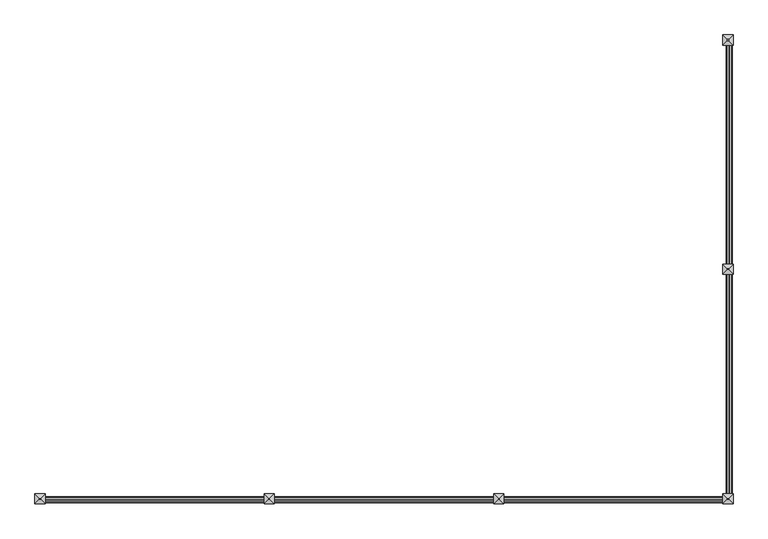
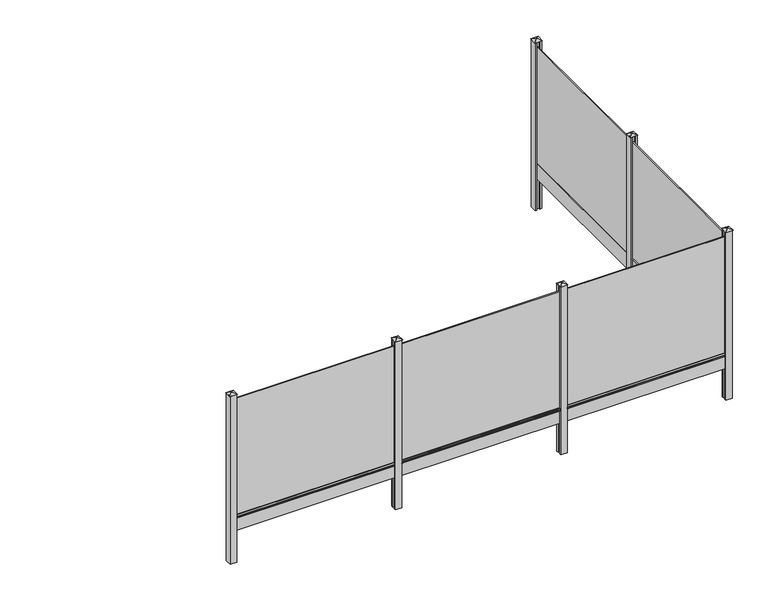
"""IFC4 building model written with IfcOpenShell, lengths in millimetres: railing geometry, Mehat - Railing - Plaque de Soubassement - Classique pour clôture rigide - 251x25x4.3/3.8 cm."""

from ifc_helpers import new_model, si_unit, frame, origin, place, context, project, spatial, polyline, circle_curve, outline, extrude, faceted_brep, source, transform, mapped, element, save
from ifc_brep_helpers import plane_surface, cylinder_surface, advanced_brep


def railing_cda7871a(model_context):
    return source(origin(), model_context, "Body", "SolidModel", [
        extrude(outline(polyline([(180896.2516516, -10817.4943936), (180879.2516516, -10817.4943936), (180879.2516516, -8307.4943936), (180896.2516516, -8307.4943936), (180896.2516516, -10817.4943936)])), frame((0.0, 0.0, 250.0), z_axis=(0.0, 0.0, 1.0), x_axis=(1.0, 0.0, 0.0)), (0.0, 0.0, 1.0), 1900.0),
        advanced_brep(
        [(180909.0334698, -8307.4943936, 250.0), (180908.8503139, -8307.4943936, 209.8662207), (180906.7516516, -8307.4943936, 0.0), (180868.7516516, -8307.4943936, 0.0), (180866.2516516, -8307.4943936, 250.0), (180908.8503139, -10817.4943936, 209.8662207), (180909.0334698, -10817.4943936, 250.0), (180866.2516516, -10817.4943936, 250.0), (180868.7516516, -10817.4943936, 0.0), (180906.7516516, -10817.4943936, 0.0), (180909.0334698, -10792.4943936, 250.0), (180909.0334698, -8332.4943936, 250.0), (180908.8503139, -8332.4943936, 209.8662207), (180908.8503139, -10792.4943936, 209.8662207), (180930.8327905, -8332.4943936, 217.1937129), (180930.8327905, -10792.4943936, 217.1937129), (180934.2516516, -8332.4943936, 221.9371294), (180934.2516516, -10792.4943936, 221.9371294), (180934.2516516, -8332.4943936, 238.0628706), (180934.2516516, -10792.4943936, 238.0628706), (180930.8327905, -8332.4943936, 242.8062871), (180930.8327905, -10792.4943936, 242.8062871)],
        [
            (0, 1),
            (1, 2),
            (2, 3),
            (3, 4),
            (4, 0),
            (5, 6),
            (6, 7),
            (7, 8),
            (8, 9),
            (9, 5),
            (4, 7),
            (6, 10),
            (10, 11),
            (11, 0),
            (3, 8),
            (2, 9),
            (1, 12),
            (12, 13),
            (13, 5),
            (12, 14),
            (14, 15),
            (15, 13),
            (14, 16, circle_curve(frame((180929.2516516, -8332.4943936, 221.9371294), z_axis=(0.0, -1.0, 0.0), x_axis=(1.0, 0.0, 0.0)), 5.0)),
            (16, 17),
            (17, 15, circle_curve(frame((180929.2516516, -10792.4943936, 221.9371294), z_axis=(0.0, 1.0, 0.0), x_axis=(1.0, 0.0, 0.0)), 5.0)),
            (16, 18),
            (18, 19),
            (19, 17),
            (18, 20, circle_curve(frame((180929.2516516, -8332.4943936, 238.0628706), z_axis=(0.0, -1.0, 0.0), x_axis=(1.0, 0.0, 0.0)), 5.0)),
            (20, 21),
            (21, 19, circle_curve(frame((180929.2516516, -10792.4943936, 238.0628706), z_axis=(0.0, 1.0, 0.0), x_axis=(1.0, 0.0, 0.0)), 5.0)),
            (20, 11),
            (10, 21),
            (10, 13),
            (12, 11),
        ],
        [
            plane_surface(frame((180866.2516516, -8307.4943936, 250.0), z_axis=(0.0, 1.0, 0.0), x_axis=(-1.0, 0.0, 0.0))),
            plane_surface(frame((180866.2516516, -10817.4943936, 250.0), z_axis=(0.0, -1.0, 0.0), x_axis=(1.0, 0.0, 0.0))),
            plane_surface(frame((180909.0334698, -8307.4943936, 250.0), z_axis=(0.0, 0.0, 1.0), x_axis=(0.0, -1.0, 0.0))),
            plane_surface(frame((180866.2516516, -8307.4943936, 250.0), z_axis=(-0.9999500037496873, 0.0, -0.009999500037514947), x_axis=(0.0, -1.0, 0.0))),
            plane_surface(frame((180868.7516516, -8307.4943936, 0.0), z_axis=(0.0, 0.0, -1.0), x_axis=(0.0, -1.0, 0.0))),
            plane_surface(frame((180906.7516516, -8307.4943936, 0.0), z_axis=(0.9999500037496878, 0.0, -0.009999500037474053), x_axis=(0.0, -1.0, 0.0))),
            plane_surface(frame((180908.8503139, -8307.4943936, 209.8662207), z_axis=(0.3162277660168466, 0.0, -0.948683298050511), x_axis=(0.0, -1.0, 0.0))),
            cylinder_surface(frame((180929.2516516, -10817.4943936, 221.9371294), z_axis=(0.0, 1.0, 0.0), x_axis=(1.0, 0.0, 0.0)), 5.0),
            plane_surface(frame((180934.2516516, -8307.4943936, 221.9371294), z_axis=(1.0, 0.0, 0.0), x_axis=(0.0, -1.0, 0.0))),
            cylinder_surface(frame((180929.2516516, -10817.4943936, 238.0628706), z_axis=(0.0, 1.0, 0.0), x_axis=(1.0, 0.0, 0.0)), 5.0),
            plane_surface(frame((180930.8327905, -8307.4943936, 242.8062871), z_axis=(0.3133749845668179, 0.0, 0.9496294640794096), x_axis=(0.0, -1.0, 0.0))),
            plane_surface(frame((180934.2516516, -10792.4943936, 221.9371294), z_axis=(0.0, -1.0, 0.0), x_axis=(0.0, 0.0, 1.0))),
            plane_surface(frame((180909.0334698, -10792.4943936, 250.0), z_axis=(0.9999895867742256, 0.0, -0.004563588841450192), x_axis=(0.0, -1.0, 0.0))),
            plane_surface(frame((180934.2516517, -8332.4943936, 221.9371294), z_axis=(0.0, 1.0, 0.0), x_axis=(0.0, 0.0, -1.0))),
            plane_surface(frame((180909.0334698, -8307.4943936, 250.0), z_axis=(0.9999895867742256, 0.0, -0.004563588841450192), x_axis=(0.0, -1.0, 0.0))),
        ],
        [
            (0, [[1, 2, 3, 4, 5]]),
            (1, [[6, 7, 8, 9, 10]]),
            (2, [[11, -7, 12, 13, 14, -5]]),
            (3, [[15, -8, -11, -4]]),
            (4, [[16, -9, -15, -3]]),
            (5, [[17, 18, 19, -10, -16, -2]]),
            (6, [[-18, 20, 21, 22]]),
            (7, [[-21, 23, 24, 25]]),
            (8, [[-24, 26, 27, 28]]),
            (9, [[-27, 29, 30, 31]]),
            (10, [[-30, 32, -13, 33]]),
            (11, [[-22, -25, -28, -31, -33, 34]]),
            (12, [[-12, -6, -19, -34]]),
            (13, [[-32, -29, -26, -23, -20, 35]]),
            (14, [[-17, -1, -14, -35]]),
        ],
    ),
        extrude(outline(polyline([(180937.7516516, -10892.4943936), (180909.2516516, -10892.4943936), (180909.2516516, -10867.4943936), (180866.2516516, -10867.4943936), (180866.2516516, -10892.4943936), (180837.7516516, -10892.4943936), (180837.7516516, -10792.4943936), (180866.2516516, -10792.4943936), (180866.2516516, -10817.4943936), (180909.2516516, -10817.4943936), (180909.2516516, -10792.4943936), (180937.7516516, -10792.4943936), (180937.7516516, -10892.4943936)])), frame((0.0, 0.0, -500.0), z_axis=(0.0, 0.0, 1.0), x_axis=(1.0, 0.0, 0.0)), (0.0, 0.0, 1.0), 2750.0),
        faceted_brep([(180881.3471055, -10836.1443936, 2275.4), (180881.3471055, -10848.8443936, 2275.4), (180894.0471055, -10848.8443936, 2275.4), (180894.0471055, -10836.1443936, 2275.4), (180831.4016516, -10786.1443936, 2250.0), (180944.1016516, -10786.1443936, 2250.0), (180944.1016516, -10898.8443936, 2250.0), (180831.4016516, -10898.8443936, 2250.0)], [[[0, 1, 2, 3]], [[4, 5, 6, 7]], [[4, 0, 3, 5]], [[5, 3, 2, 6]], [[6, 2, 1, 7]], [[7, 1, 0, 4]]]),
        extrude(outline(polyline([(180896.2516516, -13377.4943936), (180879.2516516, -13377.4943936), (180879.2516516, -10867.4943936), (180896.2516516, -10867.4943936), (180896.2516516, -13377.4943936)])), frame((0.0, 0.0, 250.0), z_axis=(0.0, 0.0, 1.0), x_axis=(1.0, 0.0, 0.0)), (0.0, 0.0, 1.0), 1900.0),
        advanced_brep(
        [(180909.0334698, -10867.4943936, 250.0), (180908.8503139, -10867.4943936, 209.8662207), (180906.7516516, -10867.4943936, 0.0), (180868.7516516, -10867.4943936, 0.0), (180866.2516516, -10867.4943936, 250.0), (180908.8503139, -13377.4943936, 209.8662207), (180909.0334698, -13377.4943936, 250.0), (180866.2516516, -13377.4943936, 250.0), (180868.7516516, -13377.4943936, 0.0), (180906.7516516, -13377.4943936, 0.0), (180909.0334698, -13352.4943936, 250.0), (180909.0334698, -10892.4943936, 250.0), (180908.8503139, -10892.4943936, 209.8662207), (180908.8503139, -13352.4943936, 209.8662207), (180930.8327905, -10892.4943936, 217.1937129), (180930.8327905, -13352.4943936, 217.1937129), (180934.2516516, -10892.4943936, 221.9371294), (180934.2516516, -13352.4943936, 221.9371294), (180934.2516516, -10892.4943936, 238.0628706), (180934.2516516, -13352.4943936, 238.0628706), (180930.8327905, -10892.4943936, 242.8062871), (180930.8327905, -13352.4943936, 242.8062871)],
        [
            (0, 1),
            (1, 2),
            (2, 3),
            (3, 4),
            (4, 0),
            (5, 6),
            (6, 7),
            (7, 8),
            (8, 9),
            (9, 5),
            (4, 7),
            (6, 10),
            (10, 11),
            (11, 0),
            (3, 8),
            (2, 9),
            (1, 12),
            (12, 13),
            (13, 5),
            (12, 14),
            (14, 15),
            (15, 13),
            (14, 16, circle_curve(frame((180929.2516516, -10892.4943936, 221.9371294), z_axis=(0.0, -1.0, 0.0), x_axis=(1.0, 0.0, 0.0)), 5.0)),
            (16, 17),
            (17, 15, circle_curve(frame((180929.2516516, -13352.4943936, 221.9371294), z_axis=(0.0, 1.0, 0.0), x_axis=(1.0, 0.0, 0.0)), 5.0)),
            (16, 18),
            (18, 19),
            (19, 17),
            (18, 20, circle_curve(frame((180929.2516516, -10892.4943936, 238.0628706), z_axis=(0.0, -1.0, 0.0), x_axis=(1.0, 0.0, 0.0)), 5.0)),
            (20, 21),
            (21, 19, circle_curve(frame((180929.2516516, -13352.4943936, 238.0628706), z_axis=(0.0, 1.0, 0.0), x_axis=(1.0, 0.0, 0.0)), 5.0)),
            (20, 11),
            (10, 21),
            (10, 13),
            (12, 11),
        ],
        [
            plane_surface(frame((180866.2516516, -10867.4943936, 250.0), z_axis=(0.0, 1.0, 0.0), x_axis=(-1.0, 0.0, 0.0))),
            plane_surface(frame((180866.2516516, -13377.4943936, 250.0), z_axis=(0.0, -1.0, 0.0), x_axis=(1.0, 0.0, 0.0))),
            plane_surface(frame((180909.0334698, -10867.4943936, 250.0), z_axis=(0.0, 0.0, 1.0), x_axis=(0.0, -1.0, 0.0))),
            plane_surface(frame((180866.2516516, -10867.4943936, 250.0), z_axis=(-0.9999500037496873, 0.0, -0.009999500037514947), x_axis=(0.0, -1.0, 0.0))),
            plane_surface(frame((180868.7516516, -10867.4943936, 0.0), z_axis=(0.0, 0.0, -1.0), x_axis=(0.0, -1.0, 0.0))),
            plane_surface(frame((180906.7516516, -10867.4943936, 0.0), z_axis=(0.9999500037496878, 0.0, -0.009999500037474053), x_axis=(0.0, -1.0, 0.0))),
            plane_surface(frame((180908.8503139, -10867.4943936, 209.8662207), z_axis=(0.3162277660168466, 0.0, -0.948683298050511), x_axis=(0.0, -1.0, 0.0))),
            cylinder_surface(frame((180929.2516516, -13377.4943936, 221.9371294), z_axis=(0.0, 1.0, 0.0), x_axis=(1.0, 0.0, 0.0)), 5.0),
            plane_surface(frame((180934.2516516, -10867.4943936, 221.9371294), z_axis=(1.0, 0.0, 0.0), x_axis=(0.0, -1.0, 0.0))),
            cylinder_surface(frame((180929.2516516, -13377.4943936, 238.0628706), z_axis=(0.0, 1.0, 0.0), x_axis=(1.0, 0.0, 0.0)), 5.0),
            plane_surface(frame((180930.8327905, -10867.4943936, 242.8062871), z_axis=(0.3133749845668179, 0.0, 0.9496294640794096), x_axis=(0.0, -1.0, 0.0))),
            plane_surface(frame((180934.2516516, -13352.4943936, 221.9371294), z_axis=(0.0, -1.0, 0.0), x_axis=(0.0, 0.0, 1.0))),
            plane_surface(frame((180909.0334698, -13352.4943936, 250.0), z_axis=(0.9999895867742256, 0.0, -0.004563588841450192), x_axis=(0.0, -1.0, 0.0))),
            plane_surface(frame((180934.2516517, -10892.4943936, 221.9371294), z_axis=(0.0, 1.0, 0.0), x_axis=(0.0, 0.0, -1.0))),
            plane_surface(frame((180909.0334698, -10867.4943936, 250.0), z_axis=(0.9999895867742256, 0.0, -0.004563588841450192), x_axis=(0.0, -1.0, 0.0))),
        ],
        [
            (0, [[1, 2, 3, 4, 5]]),
            (1, [[6, 7, 8, 9, 10]]),
            (2, [[11, -7, 12, 13, 14, -5]]),
            (3, [[15, -8, -11, -4]]),
            (4, [[16, -9, -15, -3]]),
            (5, [[17, 18, 19, -10, -16, -2]]),
            (6, [[-18, 20, 21, 22]]),
            (7, [[-21, 23, 24, 25]]),
            (8, [[-24, 26, 27, 28]]),
            (9, [[-27, 29, 30, 31]]),
            (10, [[-30, 32, -13, 33]]),
            (11, [[-22, -25, -28, -31, -33, 34]]),
            (12, [[-12, -6, -19, -34]]),
            (13, [[-32, -29, -26, -23, -20, 35]]),
            (14, [[-17, -1, -14, -35]]),
        ],
    ),
        extrude(outline(polyline([(178352.7516516, -13410.9943936), (178352.7516516, -13393.9943936), (180862.7516516, -13393.9943936), (180862.7516516, -13410.9943936), (178352.7516516, -13410.9943936)])), frame((0.0, 0.0, 250.0), z_axis=(0.0, 0.0, 1.0), x_axis=(1.0, 0.0, 0.0)), (0.0, 0.0, 1.0), 1900.0),
        advanced_brep(
        [(180862.7516516, -13423.7762118, 250.0), (180862.7516516, -13423.5930558, 209.8662207), (180862.7516516, -13421.4943936, 0.0), (180862.7516516, -13383.4943936, 0.0), (180862.7516516, -13380.9943936, 250.0), (178352.7516516, -13423.5930558, 209.8662207), (178352.7516516, -13423.7762118, 250.0), (178352.7516516, -13380.9943936, 250.0), (178352.7516516, -13383.4943936, 0.0), (178352.7516516, -13421.4943936, 0.0), (178377.7516516, -13423.7762118, 250.0), (180837.7516516, -13423.7762118, 250.0), (180837.7516516, -13423.5930558, 209.8662207), (178377.7516516, -13423.5930558, 209.8662207), (180837.7516516, -13445.5755325, 217.1937129), (178377.7516516, -13445.5755325, 217.1937129), (180837.7516516, -13448.9943936, 221.9371294), (178377.7516516, -13448.9943936, 221.9371294), (180837.7516516, -13448.9943936, 238.0628706), (178377.7516516, -13448.9943936, 238.0628706), (180837.7516516, -13445.5755325, 242.8062871), (178377.7516516, -13445.5755325, 242.8062871)],
        [
            (0, 1),
            (1, 2),
            (2, 3),
            (3, 4),
            (4, 0),
            (5, 6),
            (6, 7),
            (7, 8),
            (8, 9),
            (9, 5),
            (4, 7),
            (6, 10),
            (10, 11),
            (11, 0),
            (3, 8),
            (2, 9),
            (1, 12),
            (12, 13),
            (13, 5),
            (12, 14),
            (14, 15),
            (15, 13),
            (14, 16, circle_curve(frame((180837.7516516, -13443.9943936, 221.9371294), z_axis=(-1.0, 0.0, 0.0), x_axis=(0.0, -1.0, 0.0)), 5.0)),
            (16, 17),
            (17, 15, circle_curve(frame((178377.7516516, -13443.9943936, 221.9371294), z_axis=(1.0, 0.0, 0.0), x_axis=(0.0, -1.0, 0.0)), 5.0)),
            (16, 18),
            (18, 19),
            (19, 17),
            (18, 20, circle_curve(frame((180837.7516516, -13443.9943936, 238.0628706), z_axis=(-1.0, 0.0, 0.0), x_axis=(0.0, -1.0, 0.0)), 5.0)),
            (20, 21),
            (21, 19, circle_curve(frame((178377.7516516, -13443.9943936, 238.0628706), z_axis=(1.0, 0.0, 0.0), x_axis=(0.0, -1.0, 0.0)), 5.0)),
            (20, 11),
            (10, 21),
            (10, 13),
            (12, 11),
        ],
        [
            plane_surface(frame((180862.7516516, -13380.9943936, 250.0), z_axis=(1.0, 0.0, 0.0), x_axis=(0.0, 1.0, 0.0))),
            plane_surface(frame((178352.7516516, -13380.9943936, 250.0), z_axis=(-1.0, 0.0, 0.0), x_axis=(0.0, -1.0, 0.0))),
            plane_surface(frame((180862.7516516, -13423.7762118, 250.0), z_axis=(0.0, 0.0, 1.0), x_axis=(-1.0, 0.0, 0.0))),
            plane_surface(frame((180862.7516516, -13380.9943936, 250.0), z_axis=(0.0, 0.9999500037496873, -0.009999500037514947), x_axis=(-1.0, 0.0, 0.0))),
            plane_surface(frame((180862.7516516, -13383.4943936, 0.0), z_axis=(0.0, 0.0, -1.0), x_axis=(-1.0, 0.0, 0.0))),
            plane_surface(frame((180862.7516516, -13421.4943936, 0.0), z_axis=(0.0, -0.9999500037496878, -0.009999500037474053), x_axis=(-1.0, 0.0, 0.0))),
            plane_surface(frame((180862.7516516, -13423.5930558, 209.8662207), z_axis=(0.0, -0.3162277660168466, -0.948683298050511), x_axis=(-1.0, 0.0, 0.0))),
            cylinder_surface(frame((178352.7516516, -13443.9943936, 221.9371294), z_axis=(1.0, 0.0, 0.0), x_axis=(0.0, -1.0, 0.0)), 5.0),
            plane_surface(frame((180862.7516516, -13448.9943936, 221.9371294), z_axis=(0.0, -1.0, 0.0), x_axis=(-1.0, 0.0, 0.0))),
            cylinder_surface(frame((178352.7516516, -13443.9943936, 238.0628706), z_axis=(1.0, 0.0, 0.0), x_axis=(0.0, -1.0, 0.0)), 5.0),
            plane_surface(frame((180862.7516516, -13445.5755325, 242.8062871), z_axis=(0.0, -0.3133749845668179, 0.9496294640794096), x_axis=(-1.0, 0.0, 0.0))),
            plane_surface(frame((178377.7516516, -13448.9943936, 221.9371294), z_axis=(-1.0, 0.0, 0.0), x_axis=(0.0, 0.0, 1.0))),
            plane_surface(frame((178377.7516516, -13423.7762118, 250.0), z_axis=(0.0, -0.9999895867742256, -0.004563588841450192), x_axis=(-1.0, 0.0, 0.0))),
            plane_surface(frame((180837.7516516, -13448.9943936, 221.9371294), z_axis=(1.0, 0.0, 0.0), x_axis=(0.0, 0.0, -1.0))),
            plane_surface(frame((180862.7516516, -13423.7762118, 250.0), z_axis=(0.0, -0.9999895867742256, -0.004563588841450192), x_axis=(-1.0, 0.0, 0.0))),
        ],
        [
            (0, [[1, 2, 3, 4, 5]]),
            (1, [[6, 7, 8, 9, 10]]),
            (2, [[11, -7, 12, 13, 14, -5]]),
            (3, [[15, -8, -11, -4]]),
            (4, [[16, -9, -15, -3]]),
            (5, [[17, 18, 19, -10, -16, -2]]),
            (6, [[-18, 20, 21, 22]]),
            (7, [[-21, 23, 24, 25]]),
            (8, [[-24, 26, 27, 28]]),
            (9, [[-27, 29, 30, 31]]),
            (10, [[-30, 32, -13, 33]]),
            (11, [[-22, -25, -28, -31, -33, 34]]),
            (12, [[-12, -6, -19, -34]]),
            (13, [[-32, -29, -26, -23, -20, 35]]),
            (14, [[-17, -1, -14, -35]]),
        ],
    ),
        extrude(outline(polyline([(178277.7516516, -13452.4943936), (178277.7516516, -13423.9943936), (178302.7516516, -13423.9943936), (178302.7516516, -13380.9943936), (178277.7516516, -13380.9943936), (178277.7516516, -13352.4943936), (178377.7516516, -13352.4943936), (178377.7516516, -13380.9943936), (178352.7516516, -13380.9943936), (178352.7516516, -13423.9943936), (178377.7516516, -13423.9943936), (178377.7516516, -13452.4943936), (178277.7516516, -13452.4943936)])), frame((0.0, 0.0, -500.0), z_axis=(0.0, 0.0, 1.0), x_axis=(1.0, 0.0, 0.0)), (0.0, 0.0, 1.0), 2750.0),
        faceted_brep([(178334.1016516, -13396.0898475, 2275.4), (178321.4016516, -13396.0898475, 2275.4), (178321.4016516, -13408.7898475, 2275.4), (178334.1016516, -13408.7898475, 2275.4), (178384.1016516, -13346.1443936, 2250.0), (178384.1016516, -13458.8443936, 2250.0), (178271.4016516, -13458.8443936, 2250.0), (178271.4016516, -13346.1443936, 2250.0)], [[[0, 1, 2, 3]], [[4, 5, 6, 7]], [[4, 0, 3, 5]], [[5, 3, 2, 6]], [[6, 2, 1, 7]], [[7, 1, 0, 4]]]),
        extrude(outline(polyline([(175792.7516516, -13410.9943936), (175792.7516516, -13393.9943936), (178302.7516516, -13393.9943936), (178302.7516516, -13410.9943936), (175792.7516516, -13410.9943936)])), frame((0.0, 0.0, 250.0), z_axis=(0.0, 0.0, 1.0), x_axis=(1.0, 0.0, 0.0)), (0.0, 0.0, 1.0), 1900.0),
        advanced_brep(
        [(178302.7516516, -13423.7762118, 250.0), (178302.7516516, -13423.5930558, 209.8662207), (178302.7516516, -13421.4943936, 0.0), (178302.7516516, -13383.4943936, 0.0), (178302.7516516, -13380.9943936, 250.0), (175792.7516516, -13423.5930558, 209.8662207), (175792.7516516, -13423.7762118, 250.0), (175792.7516516, -13380.9943936, 250.0), (175792.7516516, -13383.4943936, 0.0), (175792.7516516, -13421.4943936, 0.0), (175817.7516516, -13423.7762118, 250.0), (178277.7516516, -13423.7762118, 250.0), (178277.7516516, -13423.5930558, 209.8662207), (175817.7516516, -13423.5930558, 209.8662207), (178277.7516516, -13445.5755325, 217.1937129), (175817.7516516, -13445.5755325, 217.1937129), (178277.7516516, -13448.9943936, 221.9371294), (175817.7516516, -13448.9943936, 221.9371294), (178277.7516516, -13448.9943936, 238.0628706), (175817.7516516, -13448.9943936, 238.0628706), (178277.7516516, -13445.5755325, 242.8062871), (175817.7516516, -13445.5755325, 242.8062871)],
        [
            (0, 1),
            (1, 2),
            (2, 3),
            (3, 4),
            (4, 0),
            (5, 6),
            (6, 7),
            (7, 8),
            (8, 9),
            (9, 5),
            (4, 7),
            (6, 10),
            (10, 11),
            (11, 0),
            (3, 8),
            (2, 9),
            (1, 12),
            (12, 13),
            (13, 5),
            (12, 14),
            (14, 15),
            (15, 13),
            (14, 16, circle_curve(frame((178277.7516516, -13443.9943936, 221.9371294), z_axis=(-1.0, 0.0, 0.0), x_axis=(0.0, -1.0, 0.0)), 5.0)),
            (16, 17),
            (17, 15, circle_curve(frame((175817.7516516, -13443.9943936, 221.9371294), z_axis=(1.0, 0.0, 0.0), x_axis=(0.0, -1.0, 0.0)), 5.0)),
            (16, 18),
            (18, 19),
            (19, 17),
            (18, 20, circle_curve(frame((178277.7516516, -13443.9943936, 238.0628706), z_axis=(-1.0, 0.0, 0.0), x_axis=(0.0, -1.0, 0.0)), 5.0)),
            (20, 21),
            (21, 19, circle_curve(frame((175817.7516516, -13443.9943936, 238.0628706), z_axis=(1.0, 0.0, 0.0), x_axis=(0.0, -1.0, 0.0)), 5.0)),
            (20, 11),
            (10, 21),
            (10, 13),
            (12, 11),
        ],
        [
            plane_surface(frame((178302.7516516, -13380.9943936, 250.0), z_axis=(1.0, 0.0, 0.0), x_axis=(0.0, 1.0, 0.0))),
            plane_surface(frame((175792.7516516, -13380.9943936, 250.0), z_axis=(-1.0, 0.0, 0.0), x_axis=(0.0, -1.0, 0.0))),
            plane_surface(frame((178302.7516516, -13423.7762118, 250.0), z_axis=(0.0, 0.0, 1.0), x_axis=(-1.0, 0.0, 0.0))),
            plane_surface(frame((178302.7516516, -13380.9943936, 250.0), z_axis=(0.0, 0.9999500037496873, -0.009999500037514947), x_axis=(-1.0, 0.0, 0.0))),
            plane_surface(frame((178302.7516516, -13383.4943936, 0.0), z_axis=(0.0, 0.0, -1.0), x_axis=(-1.0, 0.0, 0.0))),
            plane_surface(frame((178302.7516516, -13421.4943936, 0.0), z_axis=(0.0, -0.9999500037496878, -0.009999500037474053), x_axis=(-1.0, 0.0, 0.0))),
            plane_surface(frame((178302.7516516, -13423.5930558, 209.8662207), z_axis=(0.0, -0.3162277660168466, -0.948683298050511), x_axis=(-1.0, 0.0, 0.0))),
            cylinder_surface(frame((175792.7516516, -13443.9943936, 221.9371294), z_axis=(1.0, 0.0, 0.0), x_axis=(0.0, -1.0, 0.0)), 5.0),
            plane_surface(frame((178302.7516516, -13448.9943936, 221.9371294), z_axis=(0.0, -1.0, 0.0), x_axis=(-1.0, 0.0, 0.0))),
            cylinder_surface(frame((175792.7516516, -13443.9943936, 238.0628706), z_axis=(1.0, 0.0, 0.0), x_axis=(0.0, -1.0, 0.0)), 5.0),
            plane_surface(frame((178302.7516516, -13445.5755325, 242.8062871), z_axis=(0.0, -0.3133749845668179, 0.9496294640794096), x_axis=(-1.0, 0.0, 0.0))),
            plane_surface(frame((175817.7516516, -13448.9943936, 221.9371294), z_axis=(-1.0, 0.0, 0.0), x_axis=(0.0, 0.0, 1.0))),
            plane_surface(frame((175817.7516516, -13423.7762118, 250.0), z_axis=(0.0, -0.9999895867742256, -0.004563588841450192), x_axis=(-1.0, 0.0, 0.0))),
            plane_surface(frame((178277.7516516, -13448.9943936, 221.9371294), z_axis=(1.0, 0.0, 0.0), x_axis=(0.0, 0.0, -1.0))),
            plane_surface(frame((178302.7516516, -13423.7762118, 250.0), z_axis=(0.0, -0.9999895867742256, -0.004563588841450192), x_axis=(-1.0, 0.0, 0.0))),
        ],
        [
            (0, [[1, 2, 3, 4, 5]]),
            (1, [[6, 7, 8, 9, 10]]),
            (2, [[11, -7, 12, 13, 14, -5]]),
            (3, [[15, -8, -11, -4]]),
            (4, [[16, -9, -15, -3]]),
            (5, [[17, 18, 19, -10, -16, -2]]),
            (6, [[-18, 20, 21, 22]]),
            (7, [[-21, 23, 24, 25]]),
            (8, [[-24, 26, 27, 28]]),
            (9, [[-27, 29, 30, 31]]),
            (10, [[-30, 32, -13, 33]]),
            (11, [[-22, -25, -28, -31, -33, 34]]),
            (12, [[-12, -6, -19, -34]]),
            (13, [[-32, -29, -26, -23, -20, 35]]),
            (14, [[-17, -1, -14, -35]]),
        ],
    ),
        extrude(outline(polyline([(175717.7516516, -13452.4943936), (175717.7516516, -13423.9943936), (175742.7516516, -13423.9943936), (175742.7516516, -13380.9943936), (175717.7516516, -13380.9943936), (175717.7516516, -13352.4943936), (175817.7516516, -13352.4943936), (175817.7516516, -13380.9943936), (175792.7516516, -13380.9943936), (175792.7516516, -13423.9943936), (175817.7516516, -13423.9943936), (175817.7516516, -13452.4943936), (175717.7516516, -13452.4943936)])), frame((0.0, 0.0, -500.0), z_axis=(0.0, 0.0, 1.0), x_axis=(1.0, 0.0, 0.0)), (0.0, 0.0, 1.0), 2750.0),
        faceted_brep([(175774.1016516, -13396.0898475, 2275.4), (175761.4016516, -13396.0898475, 2275.4), (175761.4016516, -13408.7898475, 2275.4), (175774.1016516, -13408.7898475, 2275.4), (175824.1016516, -13346.1443936, 2250.0), (175824.1016516, -13458.8443936, 2250.0), (175711.4016516, -13458.8443936, 2250.0), (175711.4016516, -13346.1443936, 2250.0)], [[[0, 1, 2, 3]], [[4, 5, 6, 7]], [[4, 0, 3, 5]], [[5, 3, 2, 6]], [[6, 2, 1, 7]], [[7, 1, 0, 4]]]),
        extrude(outline(polyline([(173232.7516516, -13410.9943936), (173232.7516516, -13393.9943936), (175742.7516516, -13393.9943936), (175742.7516516, -13410.9943936), (173232.7516516, -13410.9943936)])), frame((0.0, 0.0, 250.0), z_axis=(0.0, 0.0, 1.0), x_axis=(1.0, 0.0, 0.0)), (0.0, 0.0, 1.0), 1900.0),
        advanced_brep(
        [(175742.7516516, -13423.7762118, 250.0), (175742.7516516, -13423.5930558, 209.8662207), (175742.7516516, -13421.4943936, 0.0), (175742.7516516, -13383.4943936, 0.0), (175742.7516516, -13380.9943936, 250.0), (173232.7516516, -13423.5930558, 209.8662207), (173232.7516516, -13423.7762118, 250.0), (173232.7516516, -13380.9943936, 250.0), (173232.7516516, -13383.4943936, 0.0), (173232.7516516, -13421.4943936, 0.0), (173257.7516516, -13423.7762118, 250.0), (175717.7516516, -13423.7762118, 250.0), (175717.7516516, -13423.5930558, 209.8662207), (173257.7516516, -13423.5930558, 209.8662207), (175717.7516516, -13445.5755325, 217.1937129), (173257.7516516, -13445.5755325, 217.1937129), (175717.7516516, -13448.9943936, 221.9371294), (173257.7516516, -13448.9943936, 221.9371294), (175717.7516516, -13448.9943936, 238.0628706), (173257.7516516, -13448.9943936, 238.0628706), (175717.7516516, -13445.5755325, 242.8062871), (173257.7516516, -13445.5755325, 242.8062871)],
        [
            (0, 1),
            (1, 2),
            (2, 3),
            (3, 4),
            (4, 0),
            (5, 6),
            (6, 7),
            (7, 8),
            (8, 9),
            (9, 5),
            (4, 7),
            (6, 10),
            (10, 11),
            (11, 0),
            (3, 8),
            (2, 9),
            (1, 12),
            (12, 13),
            (13, 5),
            (12, 14),
            (14, 15),
            (15, 13),
            (14, 16, circle_curve(frame((175717.7516516, -13443.9943936, 221.9371294), z_axis=(-1.0, 0.0, 0.0), x_axis=(0.0, -1.0, 0.0)), 5.0)),
            (16, 17),
            (17, 15, circle_curve(frame((173257.7516516, -13443.9943936, 221.9371294), z_axis=(1.0, 0.0, 0.0), x_axis=(0.0, -1.0, 0.0)), 5.0)),
            (16, 18),
            (18, 19),
            (19, 17),
            (18, 20, circle_curve(frame((175717.7516516, -13443.9943936, 238.0628706), z_axis=(-1.0, 0.0, 0.0), x_axis=(0.0, -1.0, 0.0)), 5.0)),
            (20, 21),
            (21, 19, circle_curve(frame((173257.7516516, -13443.9943936, 238.0628706), z_axis=(1.0, 0.0, 0.0), x_axis=(0.0, -1.0, 0.0)), 5.0)),
            (20, 11),
            (10, 21),
            (10, 13),
            (12, 11),
        ],
        [
            plane_surface(frame((175742.7516516, -13380.9943936, 250.0), z_axis=(1.0, 0.0, 0.0), x_axis=(0.0, 1.0, 0.0))),
            plane_surface(frame((173232.7516516, -13380.9943936, 250.0), z_axis=(-1.0, 0.0, 0.0), x_axis=(0.0, -1.0, 0.0))),
            plane_surface(frame((175742.7516516, -13423.7762118, 250.0), z_axis=(0.0, 0.0, 1.0), x_axis=(-1.0, 0.0, 0.0))),
            plane_surface(frame((175742.7516516, -13380.9943936, 250.0), z_axis=(0.0, 0.9999500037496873, -0.009999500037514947), x_axis=(-1.0, 0.0, 0.0))),
            plane_surface(frame((175742.7516516, -13383.4943936, 0.0), z_axis=(0.0, 0.0, -1.0), x_axis=(-1.0, 0.0, 0.0))),
            plane_surface(frame((175742.7516516, -13421.4943936, 0.0), z_axis=(0.0, -0.9999500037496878, -0.009999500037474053), x_axis=(-1.0, 0.0, 0.0))),
            plane_surface(frame((175742.7516516, -13423.5930558, 209.8662207), z_axis=(0.0, -0.3162277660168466, -0.948683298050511), x_axis=(-1.0, 0.0, 0.0))),
            cylinder_surface(frame((173232.7516516, -13443.9943936, 221.9371294), z_axis=(1.0, 0.0, 0.0), x_axis=(0.0, -1.0, 0.0)), 5.0),
            plane_surface(frame((175742.7516516, -13448.9943936, 221.9371294), z_axis=(0.0, -1.0, 0.0), x_axis=(-1.0, 0.0, 0.0))),
            cylinder_surface(frame((173232.7516516, -13443.9943936, 238.0628706), z_axis=(1.0, 0.0, 0.0), x_axis=(0.0, -1.0, 0.0)), 5.0),
            plane_surface(frame((175742.7516516, -13445.5755325, 242.8062871), z_axis=(0.0, -0.3133749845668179, 0.9496294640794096), x_axis=(-1.0, 0.0, 0.0))),
            plane_surface(frame((173257.7516516, -13448.9943936, 221.9371294), z_axis=(-1.0, 0.0, 0.0), x_axis=(0.0, 0.0, 1.0))),
            plane_surface(frame((173257.7516516, -13423.7762118, 250.0), z_axis=(0.0, -0.9999895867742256, -0.004563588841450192), x_axis=(-1.0, 0.0, 0.0))),
            plane_surface(frame((175717.7516516, -13448.9943936, 221.9371294), z_axis=(1.0, 0.0, 0.0), x_axis=(0.0, 0.0, -1.0))),
            plane_surface(frame((175742.7516516, -13423.7762118, 250.0), z_axis=(0.0, -0.9999895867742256, -0.004563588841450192), x_axis=(-1.0, 0.0, 0.0))),
        ],
        [
            (0, [[1, 2, 3, 4, 5]]),
            (1, [[6, 7, 8, 9, 10]]),
            (2, [[11, -7, 12, 13, 14, -5]]),
            (3, [[15, -8, -11, -4]]),
            (4, [[16, -9, -15, -3]]),
            (5, [[17, 18, 19, -10, -16, -2]]),
            (6, [[-18, 20, 21, 22]]),
            (7, [[-21, 23, 24, 25]]),
            (8, [[-24, 26, 27, 28]]),
            (9, [[-27, 29, 30, 31]]),
            (10, [[-30, 32, -13, 33]]),
            (11, [[-22, -25, -28, -31, -33, 34]]),
            (12, [[-12, -6, -19, -34]]),
            (13, [[-32, -29, -26, -23, -20, 35]]),
            (14, [[-17, -1, -14, -35]]),
        ],
    ),
        extrude(outline(polyline([(180837.7516516, -13452.4943936), (180837.7516516, -13423.9943936), (180862.7516516, -13423.9943936), (180862.7516516, -13380.9943936), (180837.7516516, -13380.9943936), (180837.7516516, -13352.4943936), (180866.2516516, -13352.4943936), (180866.2516516, -13377.4943936), (180909.2516516, -13377.4943936), (180909.2516516, -13352.4943936), (180937.7516516, -13352.4943936), (180937.7516516, -13452.4943936), (180837.7516516, -13452.4943936)])), frame((0.0, 0.0, -500.0), z_axis=(0.0, 0.0, 1.0), x_axis=(1.0, 0.0, 0.0)), (0.0, 0.0, 1.0), 2750.0),
        faceted_brep([(180894.1016516, -13396.0898475, 2275.4), (180881.4016516, -13396.0898475, 2275.4), (180881.4016516, -13408.7898475, 2275.4), (180894.1016516, -13408.7898475, 2275.4), (180944.1016516, -13346.1443936, 2250.0), (180944.1016516, -13458.8443936, 2250.0), (180831.4016516, -13458.8443936, 2250.0), (180831.4016516, -13346.1443936, 2250.0)], [[[0, 1, 2, 3]], [[4, 5, 6, 7]], [[4, 0, 3, 5]], [[5, 3, 2, 6]], [[6, 2, 1, 7]], [[7, 1, 0, 4]]]),
        extrude(outline(polyline([(180937.7516516, -8332.4943936), (180909.2516516, -8332.4943936), (180909.2516516, -8307.4943936), (180866.2516516, -8307.4943936), (180866.2516516, -8332.4943936), (180837.7516516, -8332.4943936), (180837.7516516, -8232.4943936), (180937.7516516, -8232.4943936), (180937.7516516, -8332.4943936)])), frame((0.0, 0.0, -500.0), z_axis=(0.0, 0.0, 1.0), x_axis=(1.0, 0.0, 0.0)), (0.0, 0.0, 1.0), 2750.0),
        faceted_brep([(180881.3471055, -8276.1443936, 2275.4), (180881.3471055, -8288.8443936, 2275.4), (180894.0471055, -8288.8443936, 2275.4), (180894.0471055, -8276.1443936, 2275.4), (180831.4016516, -8226.1443936, 2250.0), (180944.1016516, -8226.1443936, 2250.0), (180944.1016516, -8338.8443936, 2250.0), (180831.4016516, -8338.8443936, 2250.0)], [[[0, 1, 2, 3]], [[4, 5, 6, 7]], [[4, 0, 3, 5]], [[5, 3, 2, 6]], [[6, 2, 1, 7]], [[7, 1, 0, 4]]]),
        extrude(outline(polyline([(173157.7516516, -13452.4943936), (173157.7516516, -13352.4943936), (173257.7516516, -13352.4943936), (173257.7516516, -13380.9943936), (173232.7516516, -13380.9943936), (173232.7516516, -13423.9943936), (173257.7516516, -13423.9943936), (173257.7516516, -13452.4943936), (173157.7516516, -13452.4943936)])), frame((0.0, 0.0, -500.0), z_axis=(0.0, 0.0, 1.0), x_axis=(1.0, 0.0, 0.0)), (0.0, 0.0, 1.0), 2750.0),
        faceted_brep([(173214.1016516, -13396.0898475, 2275.4), (173201.4016516, -13396.0898475, 2275.4), (173201.4016516, -13408.7898475, 2275.4), (173214.1016516, -13408.7898475, 2275.4), (173264.1016516, -13346.1443936, 2250.0), (173264.1016516, -13458.8443936, 2250.0), (173151.4016516, -13458.8443936, 2250.0), (173151.4016516, -13346.1443936, 2250.0)], [[[0, 1, 2, 3]], [[4, 5, 6, 7]], [[4, 0, 3, 5]], [[5, 3, 2, 6]], [[6, 2, 1, 7]], [[7, 1, 0, 4]]]),
    ])


if __name__ == "__main__":
    model = new_model("IFC4")
    model_context = context("Model", 3, world=origin())
    ifc_project = project(units=[si_unit("LENGTHUNIT", "METRE", prefix="MILLI")], contexts=[model_context])
    site = spatial("IfcSite", under=ifc_project)
    building = spatial("IfcBuilding", under=site)
    placement = place(None, origin())
    railing_shape = railing_cda7871a(model_context)
    element("IfcRailing", 1, ObjectType="Mehat - Railing - Plaque de Soubassement - Classique pour clôture rigide - 251x25x4.3/3.8 cm", at=placement, inside=building, context=model_context, shape_type="MappedRepresentation", body=[
        mapped(railing_shape, transform((0.0, 0.0, 0.0), x_axis=(1.0, 0.0, 0.0), y_axis=(0.0, 1.0, 0.0), z_axis=(0.0, 0.0, 1.0))),
    ])
    save(model, "model.ifc")
